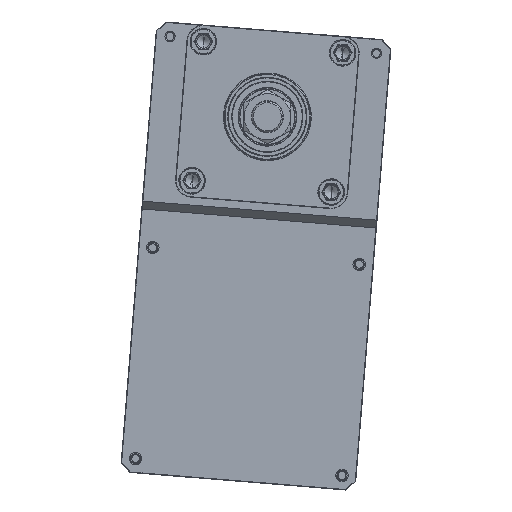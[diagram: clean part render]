
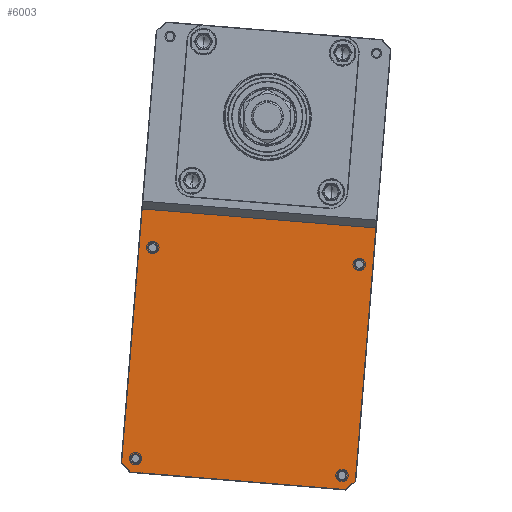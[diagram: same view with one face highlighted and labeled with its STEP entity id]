
A CAD part, front view. The second image highlights one B-rep face of the part: STEP entity #6003.
In plain terms, the highlighted planar face has unit normal (0, -1, 0) as drawn and (0, 1, 0) by its records, which use the part's own axes.
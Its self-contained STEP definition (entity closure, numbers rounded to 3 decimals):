
#5293 = VERTEX_POINT ( 'NONE', #9746 ) ;
#5306 = VERTEX_POINT ( 'NONE', #9737 ) ;
#5308 = EDGE_CURVE ( 'NONE', #5293, #5306, #8715, .T. ) ;
#5310 = EDGE_CURVE ( 'NONE', #5311, #5346, #9817, .T. ) ;
#5311 = VERTEX_POINT ( 'NONE', #9799 ) ;
#5321 = VERTEX_POINT ( 'NONE', #9781 ) ;
#5346 = VERTEX_POINT ( 'NONE', #9908 ) ;
#5425 = VERTEX_POINT ( 'NONE', #9859 ) ;
#5427 = EDGE_CURVE ( 'NONE', #5428, #5425, #9890, .T. ) ;
#5428 = VERTEX_POINT ( 'NONE', #9885 ) ;
#5448 = EDGE_CURVE ( 'NONE', #5321, #5459, #10043, .T. ) ;
#5459 = VERTEX_POINT ( 'NONE', #10024 ) ;
#5528 = EDGE_LOOP ( 'NONE', ( #5529, #5530 ) ) ;
#5529 = ORIENTED_EDGE ( 'NONE', *, *, #5448, .T. ) ;
#5530 = ORIENTED_EDGE ( 'NONE', *, *, #5531, .T. ) ;
#5531 = EDGE_CURVE ( 'NONE', #5459, #5321, #10119, .T. ) ;
#5532 = EDGE_LOOP ( 'NONE', ( #5533, #5537, #5849, #5852, #5855, #5858 ) ) ;
#5533 = ORIENTED_EDGE ( 'NONE', *, *, #5534, .F. ) ;
#5534 = EDGE_CURVE ( 'NONE', #5535, #5536, #10114, .T. ) ;
#5535 = VERTEX_POINT ( 'NONE', #10110 ) ;
#5536 = VERTEX_POINT ( 'NONE', #10109 ) ;
#5537 = ORIENTED_EDGE ( 'NONE', *, *, #5538, .T. ) ;
#5538 = EDGE_CURVE ( 'NONE', #5535, #5539, #10185, .T. ) ;
#5539 = VERTEX_POINT ( 'NONE', #10181 ) ;
#5540 = ORIENTED_EDGE ( 'NONE', *, *, #5541, .T. ) ;
#5541 = EDGE_CURVE ( 'NONE', #5306, #5293, #10180, .T. ) ;
#5542 = EDGE_LOOP ( 'NONE', ( #5788, #5904 ) ) ;
#5788 = ORIENTED_EDGE ( 'NONE', *, *, #5310, .T. ) ;
#5849 = ORIENTED_EDGE ( 'NONE', *, *, #5850, .T. ) ;
#5850 = EDGE_CURVE ( 'NONE', #5539, #5851, #10735, .T. ) ;
#5851 = VERTEX_POINT ( 'NONE', #10731 ) ;
#5852 = ORIENTED_EDGE ( 'NONE', *, *, #5853, .T. ) ;
#5853 = EDGE_CURVE ( 'NONE', #5851, #5854, #10730, .T. ) ;
#5854 = VERTEX_POINT ( 'NONE', #10726 ) ;
#5855 = ORIENTED_EDGE ( 'NONE', *, *, #5856, .T. ) ;
#5856 = EDGE_CURVE ( 'NONE', #5854, #5857, #10788, .T. ) ;
#5857 = VERTEX_POINT ( 'NONE', #10784 ) ;
#5858 = ORIENTED_EDGE ( 'NONE', *, *, #5859, .T. ) ;
#5859 = EDGE_CURVE ( 'NONE', #5857, #5536, #10783, .T. ) ;
#5903 = EDGE_CURVE ( 'NONE', #5346, #5311, #10904, .T. ) ;
#5904 = ORIENTED_EDGE ( 'NONE', *, *, #5903, .T. ) ;
#6003 = ADVANCED_FACE ( 'NONE', ( #10818, #10817, #10816, #10815, #10814 ), #10813, .F. ) ;
#6004 = EDGE_LOOP ( 'NONE', ( #6005, #6006 ) ) ;
#6005 = ORIENTED_EDGE ( 'NONE', *, *, #5427, .T. ) ;
#6006 = ORIENTED_EDGE ( 'NONE', *, *, #6007, .T. ) ;
#6007 = EDGE_CURVE ( 'NONE', #5425, #5428, #10808, .T. ) ;
#6008 = EDGE_LOOP ( 'NONE', ( #6009, #5540 ) ) ;
#6009 = ORIENTED_EDGE ( 'NONE', *, *, #5308, .T. ) ;
#8671 = CARTESIAN_POINT ( 'NONE',  ( 224., 15., -66. ) ) ;
#8694 = AXIS2_PLACEMENT_3D ( 'NONE', #8671, #9007, #9006 ) ;
#8715 = CIRCLE ( 'NONE', #8694, 3.25 ) ;
#9006 = DIRECTION ( 'NONE',  ( 0., 0., -1. ) ) ;
#9007 = DIRECTION ( 'NONE',  ( 0., -1., 0. ) ) ;
#9737 = CARTESIAN_POINT ( 'NONE',  ( 224., 15., -69.25 ) ) ;
#9746 = CARTESIAN_POINT ( 'NONE',  ( 224., 15., -62.75 ) ) ;
#9778 = DIRECTION ( 'NONE',  ( 0., -1., 0. ) ) ;
#9779 = CARTESIAN_POINT ( 'NONE',  ( 89., 15., -66. ) ) ;
#9781 = CARTESIAN_POINT ( 'NONE',  ( 89., 15., 69.25 ) ) ;
#9799 = CARTESIAN_POINT ( 'NONE',  ( 89., 15., -62.75 ) ) ;
#9817 = CIRCLE ( 'NONE', #9827, 3.25 ) ;
#9818 = DIRECTION ( 'NONE',  ( 0., 0., -1. ) ) ;
#9827 = AXIS2_PLACEMENT_3D ( 'NONE', #9779, #9778, #9818 ) ;
#9859 = CARTESIAN_POINT ( 'NONE',  ( 224., 15., 62.75 ) ) ;
#9885 = CARTESIAN_POINT ( 'NONE',  ( 224., 15., 69.25 ) ) ;
#9886 = DIRECTION ( 'NONE',  ( 0., 0., -1. ) ) ;
#9887 = DIRECTION ( 'NONE',  ( 0., -1., 0. ) ) ;
#9888 = CARTESIAN_POINT ( 'NONE',  ( 224., 15., 66. ) ) ;
#9889 = AXIS2_PLACEMENT_3D ( 'NONE', #9888, #9887, #9886 ) ;
#9890 = CIRCLE ( 'NONE', #9889, 3.25 ) ;
#9908 = CARTESIAN_POINT ( 'NONE',  ( 89., 15., -69.25 ) ) ;
#10024 = CARTESIAN_POINT ( 'NONE',  ( 89., 15., 62.75 ) ) ;
#10039 = DIRECTION ( 'NONE',  ( 0., 0., -1. ) ) ;
#10040 = DIRECTION ( 'NONE',  ( 0., -1., 0. ) ) ;
#10041 = CARTESIAN_POINT ( 'NONE',  ( 89., 15., 66. ) ) ;
#10042 = AXIS2_PLACEMENT_3D ( 'NONE', #10041, #10040, #10039 ) ;
#10043 = CIRCLE ( 'NONE', #10042, 3.25 ) ;
#10109 = CARTESIAN_POINT ( 'NONE',  ( 65., 15., -74.7 ) ) ;
#10110 = CARTESIAN_POINT ( 'NONE',  ( 65., 15., 74.7 ) ) ;
#10111 = DIRECTION ( 'NONE',  ( 0., 0., -1. ) ) ;
#10112 = VECTOR ( 'NONE', #10111, 1000. ) ;
#10113 = CARTESIAN_POINT ( 'NONE',  ( 65., 15., 75. ) ) ;
#10114 = LINE ( 'NONE', #10113, #10112 ) ;
#10115 = DIRECTION ( 'NONE',  ( 0., 0., -1. ) ) ;
#10116 = DIRECTION ( 'NONE',  ( 0., -1., 0. ) ) ;
#10117 = CARTESIAN_POINT ( 'NONE',  ( 89., 15., 66. ) ) ;
#10118 = AXIS2_PLACEMENT_3D ( 'NONE', #10117, #10116, #10115 ) ;
#10119 = CIRCLE ( 'NONE', #10118, 3.25 ) ;
#10176 = DIRECTION ( 'NONE',  ( 0., 0., -1. ) ) ;
#10177 = DIRECTION ( 'NONE',  ( 0., -1., 0. ) ) ;
#10178 = CARTESIAN_POINT ( 'NONE',  ( 224., 15., -66. ) ) ;
#10179 = AXIS2_PLACEMENT_3D ( 'NONE', #10178, #10177, #10176 ) ;
#10180 = CIRCLE ( 'NONE', #10179, 3.25 ) ;
#10181 = CARTESIAN_POINT ( 'NONE',  ( 226.876, 15., 74.7 ) ) ;
#10182 = DIRECTION ( 'NONE',  ( 1., 0., 0. ) ) ;
#10183 = VECTOR ( 'NONE', #10182, 1000. ) ;
#10184 = CARTESIAN_POINT ( 'NONE',  ( 65., 15., 74.7 ) ) ;
#10185 = LINE ( 'NONE', #10184, #10183 ) ;
#10726 = CARTESIAN_POINT ( 'NONE',  ( 232.7, 15., -68.876 ) ) ;
#10727 = DIRECTION ( 'NONE',  ( 0., 0., -1. ) ) ;
#10728 = VECTOR ( 'NONE', #10727, 1000. ) ;
#10729 = CARTESIAN_POINT ( 'NONE',  ( 232.7, 15., 75. ) ) ;
#10730 = LINE ( 'NONE', #10729, #10728 ) ;
#10731 = CARTESIAN_POINT ( 'NONE',  ( 232.7, 15., 68.876 ) ) ;
#10732 = DIRECTION ( 'NONE',  ( 0.707, 0., -0.707 ) ) ;
#10733 = VECTOR ( 'NONE', #10732, 1000. ) ;
#10734 = CARTESIAN_POINT ( 'NONE',  ( 232.788, 15., 68.788 ) ) ;
#10735 = LINE ( 'NONE', #10734, #10733 ) ;
#10780 = DIRECTION ( 'NONE',  ( -1., 0., 0. ) ) ;
#10781 = VECTOR ( 'NONE', #10780, 1000. ) ;
#10782 = CARTESIAN_POINT ( 'NONE',  ( 65., 15., -74.7 ) ) ;
#10783 = LINE ( 'NONE', #10782, #10781 ) ;
#10784 = CARTESIAN_POINT ( 'NONE',  ( 226.876, 15., -74.7 ) ) ;
#10785 = DIRECTION ( 'NONE',  ( -0.707, 0., -0.707 ) ) ;
#10786 = VECTOR ( 'NONE', #10785, 1000. ) ;
#10787 = CARTESIAN_POINT ( 'NONE',  ( 226.788, 15., -74.788 ) ) ;
#10788 = LINE ( 'NONE', #10787, #10786 ) ;
#10804 = DIRECTION ( 'NONE',  ( 0., 0., -1. ) ) ;
#10805 = DIRECTION ( 'NONE',  ( 0., -1., 0. ) ) ;
#10806 = CARTESIAN_POINT ( 'NONE',  ( 224., 15., 66. ) ) ;
#10807 = AXIS2_PLACEMENT_3D ( 'NONE', #10806, #10805, #10804 ) ;
#10808 = CIRCLE ( 'NONE', #10807, 3.25 ) ;
#10809 = DIRECTION ( 'NONE',  ( 0., 0., -1. ) ) ;
#10810 = DIRECTION ( 'NONE',  ( 0., -1., 0. ) ) ;
#10811 = CARTESIAN_POINT ( 'NONE',  ( 65., 15., 75. ) ) ;
#10812 = AXIS2_PLACEMENT_3D ( 'NONE', #10811, #10810, #10809 ) ;
#10813 = PLANE ( 'NONE',  #10812 ) ;
#10814 = FACE_OUTER_BOUND ( 'NONE', #5532, .T. ) ;
#10815 = FACE_BOUND ( 'NONE', #5528, .T. ) ;
#10816 = FACE_BOUND ( 'NONE', #5542, .T. ) ;
#10817 = FACE_BOUND ( 'NONE', #6008, .T. ) ;
#10818 = FACE_BOUND ( 'NONE', #6004, .T. ) ;
#10900 = DIRECTION ( 'NONE',  ( 0., 0., -1. ) ) ;
#10901 = DIRECTION ( 'NONE',  ( 0., -1., 0. ) ) ;
#10902 = CARTESIAN_POINT ( 'NONE',  ( 89., 15., -66. ) ) ;
#10903 = AXIS2_PLACEMENT_3D ( 'NONE', #10902, #10901, #10900 ) ;
#10904 = CIRCLE ( 'NONE', #10903, 3.25 ) ;
